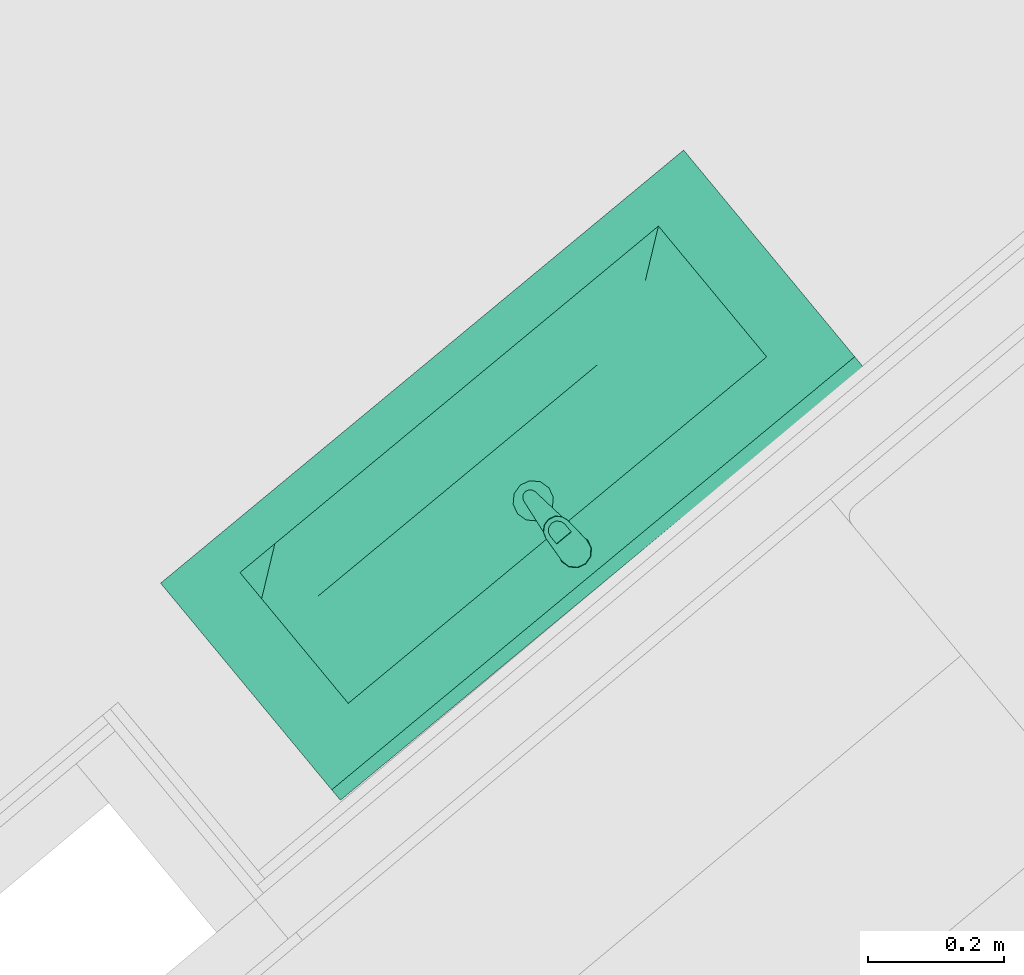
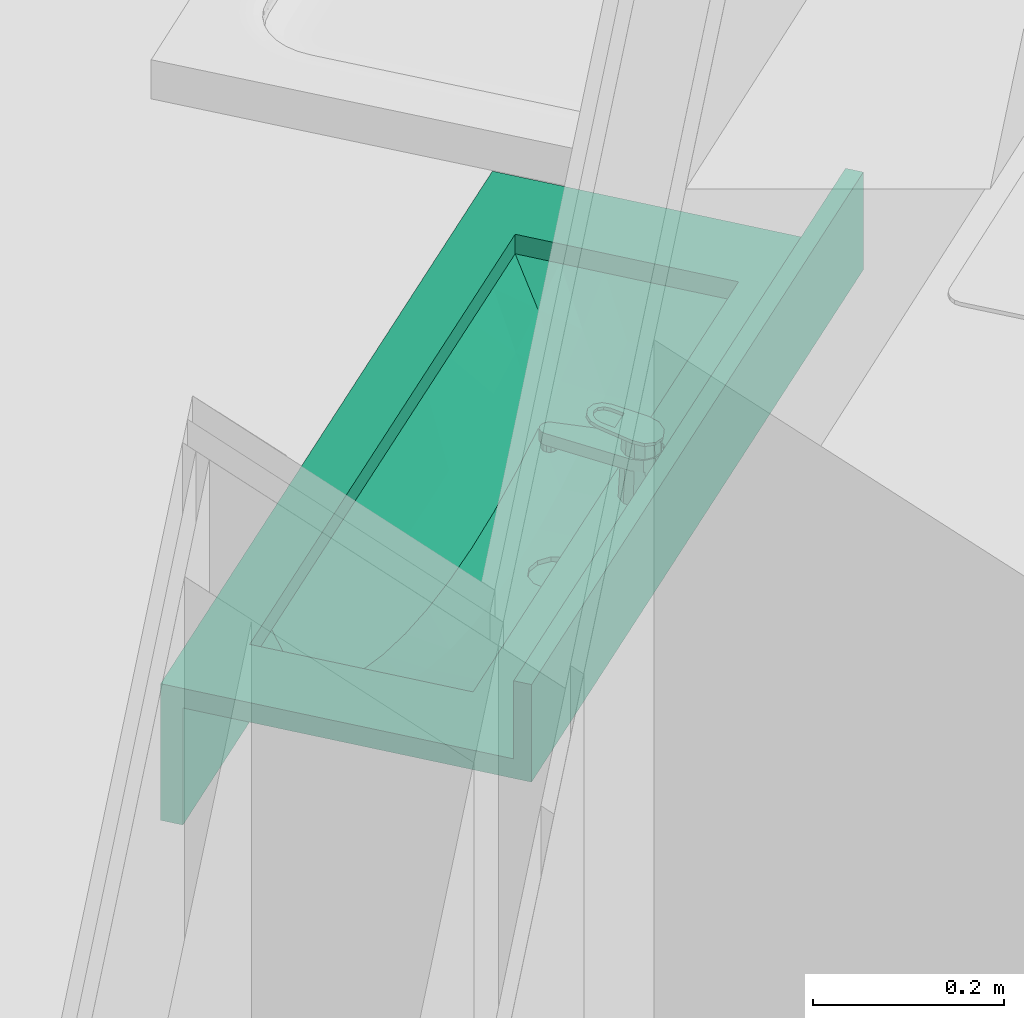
# One storey, part 50 of 53: 1 sanitary terminal.
"""IFC4 building model written with IfcOpenShell, lengths in metres."""

from ifc_helpers import new_model, entity, si_unit, converted_unit, derived_unit, direction, frame, origin_with_axes, place, context, subcontext, project, spatial, polygons, source, transform, mapped, type_object, element, save


model = new_model("IFC4")

# Units and contexts
model_context = context("Model", 3, precision=1e-05, world=origin_with_axes(), true_north=direction((0.0, 1.0)))
body_context = subcontext(model_context, "Body", "Model", "MODEL_VIEW")
ifc_project = project(units=[si_unit("LENGTHUNIT", "METRE"), si_unit("AREAUNIT", "SQUARE_METRE"), si_unit("VOLUMEUNIT", "CUBIC_METRE"), converted_unit("PLANEANGLEUNIT", "DEGREE", entity("IfcPlaneAngleMeasure", 0.0174532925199), si_unit("PLANEANGLEUNIT", "RADIAN"), dimensions=[0, 0, 0, 0, 0, 0, 0]), converted_unit("TIMEUNIT", "Year", entity("IfcTimeMeasure", 31556926.0), si_unit("TIMEUNIT", "SECOND"), dimensions=[0, 0, 1, 0, 0, 0, 0]), si_unit("MASSUNIT", "GRAM", prefix="KILO"), si_unit("THERMODYNAMICTEMPERATUREUNIT", "DEGREE_CELSIUS"), si_unit("LUMINOUSINTENSITYUNIT", "LUMEN"), si_unit("ENERGYUNIT", "JOULE", prefix="MEGA"), derived_unit("THERMALCONDUCTANCEUNIT", [(si_unit("POWERUNIT", "WATT"), 1), (si_unit("LENGTHUNIT", "METRE"), -1), (si_unit("THERMODYNAMICTEMPERATUREUNIT", "KELVIN"), -1)]), derived_unit("SPECIFICHEATCAPACITYUNIT", [(si_unit("ENERGYUNIT", "JOULE"), 1), (si_unit("MASSUNIT", "GRAM", prefix="KILO"), -1), (si_unit("THERMODYNAMICTEMPERATUREUNIT", "KELVIN"), -1)]), derived_unit("MASSDENSITYUNIT", [(si_unit("MASSUNIT", "GRAM", prefix="KILO"), 1), (si_unit("VOLUMEUNIT", "CUBIC_METRE"), -1)])], contexts=[model_context])

# Site, building, storey, space
site_placement = place(None, frame((-0.00153261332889, -0.00661245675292, 0.0), z_axis=(0.0, 0.0, 1.0), x_axis=(1.0, 0.0, 0.0)))
site = spatial("IfcSite", under=ifc_project, at=site_placement, Name="Gelände", CompositionType="ELEMENT")
building_placement = place(site_placement, origin_with_axes())
building = spatial("IfcBuilding", under=site, at=building_placement, Name="Gebäude", CompositionType="ELEMENT")
storey_placement = place(building_placement, frame((0.0, 0.0, 2.74), z_axis=(0.0, 0.0, 1.0), x_axis=(1.0, 0.0, 0.0)))
storey = spatial("IfcBuildingStorey", under=building, at=storey_placement, Name="OG1", CompositionType="ELEMENT", Elevation=2.74)
space_placement = place(storey_placement, frame((7.10032609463, 23.6820800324, 0.22), z_axis=(0.0, 0.0, 1.0), x_axis=(0.767363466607, 0.641212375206, 0.0)))
space = spatial("IfcSpace", under=storey, at=space_placement, CompositionType="ELEMENT", PredefinedType="NOTDEFINED")

# Sanitary terminal
sanitary_terminal_type = type_object("IfcSanitaryTerminalType", Name="Waschbecken mehrfach 26", PredefinedType="NOTDEFINED")
shared_shape = source(origin_with_axes(), body_context, "Body", "Tessellation", [
    polygons([(-0.5, 0.0, 0.875), (0.5, 0.0, 0.875), (0.5, -0.415119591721, 0.875), (-0.5, -0.415119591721, 0.875), (-0.4, -0.35255979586, 0.875), (0.4, -0.35255979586, 0.875), (0.4, -0.10255979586, 0.875), (-0.4, -0.10255979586, 0.875), (-0.5, 0.0, 0.9), (0.5, 0.0, 0.9), (0.5, -0.415119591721, 0.9), (-0.5, -0.415119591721, 0.9), (-0.4, -0.35255979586, 0.9), (0.4, -0.35255979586, 0.9), (0.4, -0.10255979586, 0.9), (-0.4, -0.10255979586, 0.9)], [[[1, 2, 3, 4], [5, 6, 7, 8]], [[1, 9, 10, 2]], [[2, 10, 11, 3]], [[3, 11, 12, 4]], [[4, 12, 9, 1]], [[13, 14, 6, 5]], [[14, 15, 7, 6]], [[15, 16, 8, 7]], [[16, 13, 5, 8]], [[11, 10, 9, 12], [13, 16, 15, 14]]], closed=True),
    polygons([(-0.5, -0.02, 0.9), (0.5, -0.02, 0.9), (0.5, -0.02, 1.0), (-0.5, -0.02, 1.0), (-0.5, 0.0, 0.9), (0.5, 0.0, 0.9), (0.5, 0.0, 1.0), (-0.5, 0.0, 1.0)], [[[1, 2, 3, 4]], [[1, 5, 6, 2]], [[2, 6, 7, 3]], [[4, 3, 7, 8]], [[5, 1, 4, 8]], [[6, 5, 8, 7]]], closed=True),
    polygons([(-0.5, -0.415119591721, 0.725), (0.5, -0.415119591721, 0.725), (0.5, -0.415119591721, 0.875), (-0.5, -0.415119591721, 0.875), (-0.5, -0.390119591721, 0.725), (0.5, -0.390119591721, 0.725), (0.5, -0.390119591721, 0.875), (-0.5, -0.390119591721, 0.875)], [[[1, 2, 3, 4]], [[1, 5, 6, 2]], [[2, 6, 7, 3]], [[4, 3, 7, 8]], [[5, 1, 4, 8]], [[6, 5, 8, 7]]], closed=True),
    polygons([(0.0, -0.18855104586, 0.775), (-0.015, -0.184531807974, 0.775589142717), (-0.0259807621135, -0.17355104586, 0.776020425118), (-0.03, -0.15855104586, 0.776178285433), (-0.0283946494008, -0.15255979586, 0.776115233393), (-0.0666666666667, -0.15255979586, 0.777618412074), (-0.0666666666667, -0.20255979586, 0.777618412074), (0.0, -0.20255979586, 0.775), (-0.015, -0.132570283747, 0.775589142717), (0.0, -0.12855104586, 0.775), (0.0, -0.10255979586, 0.775), (-0.0666666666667, -0.10255979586, 0.777618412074), (-0.0259807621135, -0.14355104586, 0.776020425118), (-0.133333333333, -0.15255979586, 0.785522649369), (-0.133333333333, -0.20255979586, 0.785522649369), (-0.0666666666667, -0.25255979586, 0.787498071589), (0.0666666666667, -0.15255979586, 0.777618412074), (0.0283946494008, -0.15255979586, 0.776115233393), (0.03, -0.15855104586, 0.776178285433), (0.0259807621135, -0.17355104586, 0.776020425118), (0.015, -0.184531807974, 0.775589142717), (0.0666666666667, -0.20255979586, 0.777618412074), (0.015, -0.132570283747, 0.775589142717), (0.0259807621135, -0.14355104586, 0.776020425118), (0.0666666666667, -0.10255979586, 0.777618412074), (0.2, -0.10255979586, 0.798864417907), (0.266666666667, -0.10255979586, 0.81791333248), (0.333333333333, -0.10255979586, 0.843086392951), (0.4, -0.10255979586, 0.875), (-0.4, -0.10255979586, 0.875), (-0.333333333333, -0.10255979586, 0.843086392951), (-0.266666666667, -0.10255979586, 0.81791333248), (-0.2, -0.10255979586, 0.798864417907), (-0.133333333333, -0.10255979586, 0.785522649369), (0.133333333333, -0.10255979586, 0.785522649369), (-0.2, -0.15255979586, 0.798864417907), (-0.2, -0.20255979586, 0.798864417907), (-0.133333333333, -0.25255979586, 0.794673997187), (0.0, -0.25255979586, 0.785118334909), (0.133333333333, -0.20255979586, 0.785522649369), (0.133333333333, -0.15255979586, 0.785522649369), (0.266666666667, -0.15255979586, 0.81791333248), (0.2, -0.15255979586, 0.798864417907), (0.333333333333, -0.15255979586, 0.843086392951), (0.4, -0.15255979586, 0.875), (-0.333333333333, -0.15255979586, 0.843086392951), (-0.4, -0.15255979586, 0.875), (-0.266666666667, -0.15255979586, 0.81791333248), (-0.266666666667, -0.20255979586, 0.81791333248), (-0.2, -0.25255979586, 0.80675915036), (-0.0666666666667, -0.30255979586, 0.828578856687), (-0.133333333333, -0.30255979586, 0.832507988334), (0.0666666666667, -0.25255979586, 0.787498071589), (0.2, -0.20255979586, 0.798864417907), (0.266666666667, -0.20255979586, 0.81791333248), (0.333333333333, -0.20255979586, 0.843086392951), (0.4, -0.20255979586, 0.875), (0.4, -0.25255979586, 0.875), (0.4, -0.30255979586, 0.875), (0.4, -0.35255979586, 0.875), (-0.4, -0.25255979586, 0.875), (-0.4, -0.20255979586, 0.875), (-0.4, -0.35255979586, 0.875), (-0.4, -0.30255979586, 0.875), (-0.333333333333, -0.20255979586, 0.843086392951), (-0.266666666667, -0.25255979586, 0.823952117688), (-0.2, -0.30255979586, 0.839076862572), (0.0, -0.30255979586, 0.827271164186), (0.133333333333, -0.25255979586, 0.794673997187), (0.2, -0.25255979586, 0.80675915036), (0.266666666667, -0.25255979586, 0.823952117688), (0.333333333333, -0.25255979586, 0.846554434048), (0.333333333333, -0.30255979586, 0.860271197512), (0.333333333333, -0.35255979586, 0.875), (-0.333333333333, -0.30255979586, 0.860271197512), (-0.333333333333, -0.25255979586, 0.846554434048), (-0.266666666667, -0.30255979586, 0.848316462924), (-0.0666666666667, -0.35255979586, 0.875), (-0.133333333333, -0.35255979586, 0.875), (-0.2, -0.35255979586, 0.875), (0.0666666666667, -0.30255979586, 0.828578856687), (-0.266666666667, -0.35255979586, 0.875), (-0.333333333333, -0.35255979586, 0.875), (0.266666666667, -0.35255979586, 0.875), (0.2, -0.35255979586, 0.875), (0.133333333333, -0.35255979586, 0.875), (0.0666666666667, -0.35255979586, 0.875), (0.0, -0.35255979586, 0.875), (0.133333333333, -0.30255979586, 0.832507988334), (0.2, -0.30255979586, 0.839076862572), (0.266666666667, -0.30255979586, 0.848316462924)], [[[1, 2, 3, 4, 5, 6, 7, 8]], [[9, 10, 11, 12, 6, 5, 13]], [[7, 6, 14, 15]], [[16, 8, 7]], [[17, 18, 19, 20, 21, 1, 8, 22]], [[10, 23, 24, 18, 17, 25, 11]], [[26, 27, 28, 29, 30, 31, 32, 33, 34, 12, 11, 25, 35]], [[6, 12, 34, 14]], [[15, 14, 36, 37]], [[38, 7, 15]], [[16, 39, 8]], [[38, 16, 7]], [[39, 22, 8]], [[40, 41, 17, 22]], [[41, 35, 25, 17]], [[42, 27, 26, 43]], [[44, 28, 27, 42]], [[45, 29, 28, 44]], [[46, 31, 30, 47]], [[48, 32, 31, 46]], [[36, 33, 32, 48]], [[14, 34, 33, 36]], [[43, 26, 35, 41]], [[37, 36, 48, 49]], [[50, 15, 37]], [[50, 38, 15]], [[51, 39, 16]], [[52, 16, 38]], [[39, 53, 22]], [[54, 43, 41, 40]], [[53, 40, 22]], [[55, 42, 43, 54]], [[56, 44, 42, 55]], [[57, 58, 59, 60, 29, 45]], [[57, 45, 44, 56]], [[61, 62, 47, 30, 63, 64]], [[65, 46, 47, 62]], [[49, 48, 46, 65]], [[66, 37, 49]], [[66, 50, 37]], [[67, 38, 50]], [[51, 68, 39]], [[52, 51, 16]], [[67, 52, 38]], [[68, 53, 39]], [[69, 54, 40]], [[53, 69, 40]], [[70, 55, 54]], [[71, 56, 55]], [[72, 58, 57]], [[73, 59, 58]], [[74, 60, 59]], [[72, 57, 56]], [[61, 65, 62]], [[63, 75, 64]], [[64, 76, 61]], [[76, 49, 65]], [[76, 66, 49]], [[77, 50, 66]], [[77, 67, 50]], [[78, 68, 51]], [[79, 51, 52]], [[80, 52, 67]], [[68, 81, 53]], [[69, 70, 54]], [[81, 69, 53]], [[70, 71, 55]], [[71, 72, 56]], [[73, 58, 72]], [[74, 59, 73]], [[80, 82, 83, 63, 60, 74, 84, 85, 86, 87, 88, 78, 79]], [[61, 76, 65]], [[63, 83, 75]], [[64, 75, 76]], [[75, 66, 76]], [[75, 77, 66]], [[82, 67, 77]], [[78, 88, 68]], [[79, 78, 51]], [[80, 79, 52]], [[82, 80, 67]], [[88, 81, 68]], [[89, 70, 69]], [[81, 89, 69]], [[90, 71, 70]], [[91, 72, 71]], [[91, 73, 72]], [[84, 74, 73]], [[83, 82, 77]], [[85, 84, 91]], [[86, 85, 90]], [[87, 86, 89]], [[88, 87, 81]], [[83, 77, 75]], [[89, 90, 70]], [[87, 89, 81]], [[90, 91, 71]], [[84, 73, 91]], [[85, 91, 90]], [[86, 90, 89]]], closed=False),
    polygons([(0.03, -0.15855104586, 0.776178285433), (0.0259807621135, -0.17355104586, 0.776020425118), (0.0259807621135, -0.17355104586, 0.77), (0.03, -0.15855104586, 0.77), (0.015, -0.184531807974, 0.775589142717), (0.015, -0.184531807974, 0.77), (0.0, -0.12855104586, 0.77), (0.015, -0.132570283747, 0.77), (0.0259807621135, -0.14355104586, 0.77), (0.0, -0.18855104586, 0.77), (-0.015, -0.184531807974, 0.77), (-0.0259807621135, -0.17355104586, 0.77), (-0.03, -0.15855104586, 0.77), (-0.0259807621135, -0.14355104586, 0.77), (-0.015, -0.132570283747, 0.77), (0.0259807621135, -0.14355104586, 0.776020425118), (0.0, -0.18855104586, 0.775), (0.0, -0.12855104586, 0.775), (0.015, -0.132570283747, 0.775589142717), (-0.015, -0.184531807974, 0.775589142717), (-0.0259807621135, -0.17355104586, 0.776020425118), (-0.03, -0.15855104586, 0.776178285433), (-0.0259807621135, -0.14355104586, 0.776020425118), (-0.015, -0.132570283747, 0.775589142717)], [[[1, 2, 3, 4]], [[2, 5, 6, 3]], [[7, 8, 9, 4, 3, 6, 10, 11, 12, 13, 14, 15]], [[16, 1, 4, 9]], [[5, 17, 10, 6]], [[18, 19, 8, 7]], [[19, 16, 9, 8]], [[17, 20, 11, 10]], [[20, 21, 12, 11]], [[21, 22, 13, 12]], [[22, 23, 14, 13]], [[23, 24, 15, 14]], [[24, 18, 7, 15]]], closed=False),
    polygons([(0.0125, -0.0409091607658, 0.9), (0.0, -0.0375597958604, 0.9), (0.0, -0.0413578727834, 0.975961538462), (0.0105873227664, -0.0442220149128, 0.976507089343), (0.0216506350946, -0.0500597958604, 0.9), (0.025, -0.0625597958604, 0.9), (0.0216506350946, -0.0750597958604, 0.9), (0.0125, -0.084210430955, 0.9), (0.0, -0.0875597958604, 0.9), (-0.0125, -0.084210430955, 0.9), (-0.0216506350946, -0.0750597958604, 0.9), (-0.025, -0.0625597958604, 0.9), (-0.0216506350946, -0.0500597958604, 0.9), (-0.0125, -0.0409091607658, 0.9), (-0.0105873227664, -0.0442220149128, 0.976507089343), (-0.0182735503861, -0.0520095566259, 0.977990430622), (-0.021, -0.0625597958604, 0.98), (-0.0181003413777, -0.0730100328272, 0.981990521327), (-0.0104141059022, -0.0805975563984, 0.983435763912), (0.0, -0.0833616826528, 0.983962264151), (0.0104141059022, -0.0805975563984, 0.983435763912), (0.0181003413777, -0.0730100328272, 0.981990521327), (0.021, -0.0625597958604, 0.98), (0.0182735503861, -0.0520095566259, 0.977990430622)], [[[1, 2, 3, 4]], [[1, 5, 6, 7, 8, 9, 10, 11, 12, 13, 14, 2]], [[2, 14, 15, 3]], [[4, 3, 15, 16, 17, 18, 19, 20, 21, 22, 23, 24]], [[5, 1, 4, 24]], [[6, 5, 24, 23]], [[7, 6, 23, 22]], [[8, 7, 22, 21]], [[9, 8, 21, 20]], [[10, 9, 20, 19]], [[11, 10, 19, 18]], [[12, 11, 18, 17]], [[13, 12, 17, 16]], [[14, 13, 16, 15]]], closed=True),
    polygons([(0.009, -0.16555979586, 0.935), (0.00779422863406, -0.16105979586, 0.935), (0.00779422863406, -0.16105979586, 0.945), (0.009, -0.16555979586, 0.945), (0.00779422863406, -0.17005979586, 0.935), (0.0045, -0.173354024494, 0.935), (0.0, -0.17455979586, 0.935), (-0.0045, -0.173354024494, 0.935), (-0.00779422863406, -0.17005979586, 0.935), (-0.009, -0.16555979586, 0.935), (-0.00779422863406, -0.16105979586, 0.935), (-0.0045, -0.157765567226, 0.935), (0.0, -0.15655979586, 0.935), (0.0045, -0.157765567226, 0.935), (0.0045, -0.157765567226, 0.945), (0.0, -0.15655979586, 0.945), (-0.0045, -0.157765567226, 0.945), (-0.00779422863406, -0.16105979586, 0.945), (-0.009, -0.16555979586, 0.945), (-0.00779422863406, -0.17005979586, 0.945), (-0.0045, -0.173354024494, 0.945), (0.0, -0.17455979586, 0.945), (0.0045, -0.173354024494, 0.945), (0.00779422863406, -0.17005979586, 0.945)], [[[1, 2, 3, 4]], [[1, 5, 6, 7, 8, 9, 10, 11, 12, 13, 14, 2]], [[2, 14, 15, 3]], [[4, 3, 15, 16, 17, 18, 19, 20, 21, 22, 23, 24]], [[5, 1, 4, 24]], [[6, 5, 24, 23]], [[7, 6, 23, 22]], [[8, 7, 22, 21]], [[9, 8, 21, 20]], [[10, 9, 20, 19]], [[11, 10, 19, 18]], [[12, 11, 18, 17]], [[13, 12, 17, 16]], [[14, 13, 16, 15]]], closed=True),
    polygons([(-0.0128717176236, -0.0423034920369, 0.96), (-0.021727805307, -0.0523665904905, 0.96), (-0.0238054, -0.0656096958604, 0.96), (-0.010911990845, -0.166948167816, 0.96), (-0.00902887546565, -0.17184299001, 0.96), (-0.00509332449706, -0.175309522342, 0.96), (3.62679860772e-08, -0.176559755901, 0.96), (0.00509338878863, -0.175309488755, 0.96), (0.00902891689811, -0.171842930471, 0.96), (0.010912, -0.16694809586, 0.96), (0.0238053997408, -0.0656096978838, 0.96), (0.0217278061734, -0.0523665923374, 0.96), (0.0128717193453, -0.042303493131, 0.96), (1.01998896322e-09, -0.0385598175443, 0.96), (0.011, -0.0435072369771, 0.96), (0.0190525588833, -0.0515597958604, 0.96), (0.022, -0.0625597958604, 0.96), (0.0190525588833, -0.0735597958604, 0.96), (0.011, -0.0816123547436, 0.96), (0.0, -0.0845597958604, 0.96), (-0.011, -0.0816123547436, 0.96), (-0.0190525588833, -0.0735597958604, 0.96), (-0.022, -0.0625597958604, 0.96), (-0.0190525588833, -0.0515597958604, 0.96), (-0.011, -0.0435072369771, 0.96), (0.0, -0.0405597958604, 0.96), (-0.021727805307, -0.0523665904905, 0.945), (-0.0128717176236, -0.0423034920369, 0.945), (-0.0238054, -0.0656096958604, 0.945), (-0.010911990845, -0.166948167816, 0.945), (-0.00902887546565, -0.17184299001, 0.945), (-0.00509332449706, -0.175309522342, 0.945), (3.62679860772e-08, -0.176559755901, 0.945), (0.00509338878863, -0.175309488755, 0.945), (0.00902891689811, -0.171842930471, 0.945), (0.010912, -0.16694809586, 0.945), (0.0238053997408, -0.0656096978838, 0.945), (0.0217278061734, -0.0523665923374, 0.945), (0.0128717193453, -0.042303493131, 0.945), (1.01998896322e-09, -0.0385598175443, 0.945), (0.011375, -0.0428577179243, 0.945), (0.0197020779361, -0.0511847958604, 0.945), (0.02275, -0.0625597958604, 0.945), (0.0197020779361, -0.0739347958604, 0.945), (0.011375, -0.0822618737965, 0.945), (0.0, -0.0853097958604, 0.945), (-0.011375, -0.0822618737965, 0.945), (-0.0197020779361, -0.0739347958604, 0.945), (-0.02275, -0.0625597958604, 0.945), (-0.0197020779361, -0.0511847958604, 0.945), (-0.011375, -0.0428577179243, 0.945), (0.0, -0.0398097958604, 0.945)], [[[1, 2, 3, 4, 5, 6, 7, 8, 9, 10, 11, 12, 13, 14], [15, 16, 17, 18, 19, 20, 21, 22, 23, 24, 25, 26]], [[27, 2, 1, 28]], [[29, 3, 2, 27]], [[30, 4, 3, 29]], [[31, 5, 4, 30]], [[32, 6, 5, 31]], [[33, 7, 6, 32]], [[34, 8, 7, 33]], [[35, 9, 8, 34]], [[36, 10, 9, 35]], [[37, 11, 10, 36]], [[38, 12, 11, 37]], [[39, 13, 12, 38]], [[40, 14, 13, 39]], [[28, 1, 14, 40]], [[41, 42, 16, 15]], [[42, 43, 17, 16]], [[43, 44, 18, 17]], [[44, 45, 19, 18]], [[45, 46, 20, 19]], [[21, 20, 46, 47]], [[22, 21, 47, 48]], [[23, 22, 48, 49]], [[24, 23, 49, 50]], [[25, 24, 50, 51]], [[51, 52, 26, 25]], [[52, 41, 15, 26]], [[33, 32, 31, 30, 29, 27, 28, 40, 39, 38, 37, 36, 35, 34], [45, 44, 43, 42, 41, 52, 51, 50, 49, 48, 47, 46]]], closed=True),
    polygons([(0.023893, -0.0642523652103, 0.980322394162), (0.0212964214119, -0.0517850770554, 0.977947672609), (0.0212964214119, -0.0510366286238, 0.981877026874), (0.023893, -0.0635039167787, 0.984251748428), (0.0209459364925, -0.104396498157, 0.987968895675), (0.0176631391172, -0.114074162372, 0.989812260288), (0.0100614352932, -0.121023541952, 0.991135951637), (-4.42652908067e-07, -0.123545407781, 0.991616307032), (-0.0100622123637, -0.121023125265, 0.991135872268), (-0.0176636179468, -0.114073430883, 0.989812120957), (-0.020946, -0.104395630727, 0.987968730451), (-0.023893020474, -0.0642520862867, 0.980322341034), (-0.0212962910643, -0.0517848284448, 0.977947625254), (-0.0124716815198, -0.0424685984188, 0.976173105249), (1.42337785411e-07, -0.0390278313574, 0.975517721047), (0.0124719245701, -0.0424687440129, 0.976173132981), (0.014, -0.0881005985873, 0.984864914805), (-0.014, -0.0881005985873, 0.984864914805), (-0.014, -0.102916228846, 0.987686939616), (-0.012124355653, -0.109792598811, 0.988996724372), (-0.007, -0.114826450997, 0.989955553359), (0.0, -0.116668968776, 0.990306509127), (0.007, -0.114826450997, 0.989955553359), (0.012124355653, -0.109792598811, 0.988996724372), (0.014, -0.102916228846, 0.987686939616), (0.0124719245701, -0.0417202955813, 0.980102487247), (1.42337785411e-07, -0.0382793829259, 0.979447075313), (-0.0124716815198, -0.0417201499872, 0.980102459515), (-0.0212962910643, -0.0510363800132, 0.98187697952), (-0.023893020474, -0.0635036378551, 0.984251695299), (-0.020946, -0.103647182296, 0.991898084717), (-0.0176636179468, -0.113324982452, 0.993741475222), (-0.0100622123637, -0.120274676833, 0.995065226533), (-4.42652908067e-07, -0.122796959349, 0.995545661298), (0.0100614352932, -0.120275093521, 0.995065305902), (0.0176631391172, -0.11332571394, 0.993741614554), (0.0209459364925, -0.103648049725, 0.991898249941), (0.014, -0.0873521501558, 0.988794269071), (0.014, -0.102167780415, 0.991616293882), (0.012124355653, -0.10904415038, 0.992926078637), (0.007, -0.114078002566, 0.993884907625), (0.0, -0.115920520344, 0.994235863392), (-0.007, -0.114078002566, 0.993884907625), (-0.012124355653, -0.10904415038, 0.992926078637), (-0.014, -0.102167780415, 0.991616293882), (-0.014, -0.0873521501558, 0.988794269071)], [[[1, 2, 3, 4]], [[1, 5, 6, 7, 8, 9, 10, 11, 12, 13, 14, 15, 16, 2], [17, 18, 19, 20, 21, 22, 23, 24, 25]], [[2, 16, 26, 3]], [[4, 3, 26, 27, 28, 29, 30, 31, 32, 33, 34, 35, 36, 37], [38, 39, 40, 41, 42, 43, 44, 45, 46]], [[5, 1, 4, 37]], [[6, 5, 37, 36]], [[7, 6, 36, 35]], [[8, 7, 35, 34]], [[9, 8, 34, 33]], [[10, 9, 33, 32]], [[11, 10, 32, 31]], [[12, 11, 31, 30]], [[13, 12, 30, 29]], [[14, 13, 29, 28]], [[15, 14, 28, 27]], [[16, 15, 27, 26]], [[18, 17, 38, 46]], [[19, 18, 46, 45]], [[20, 19, 45, 44]], [[21, 20, 44, 43]], [[22, 21, 43, 42]], [[23, 22, 42, 41]], [[24, 23, 41, 40]], [[25, 24, 40, 39]], [[17, 25, 39, 38]]], closed=True),
])
sanitary_terminal_placement = place(space_placement, frame((0.659537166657, 0.000157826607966, -0.075), z_axis=(0.0, 0.0, 1.0), x_axis=(-0.999990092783, 0.00445132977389, 0.0)))
element("IfcSanitaryTerminal", 1, at=sanitary_terminal_placement, inside=space, type_object=sanitary_terminal_type, Name="Objekt-0009", PredefinedType="NOTDEFINED", context=body_context, shape_type="MappedRepresentation", body=[
    mapped(shared_shape, transform((0.0, 0.0, 0.0))),
])

save(model, "model.ifc")
